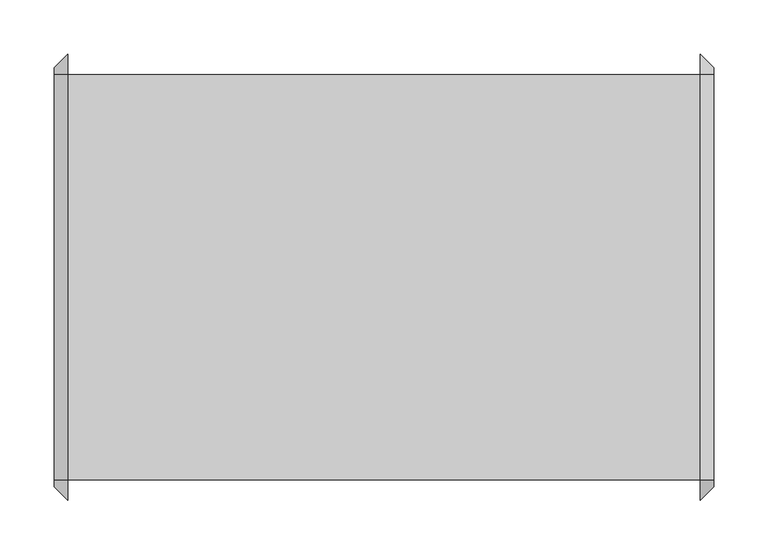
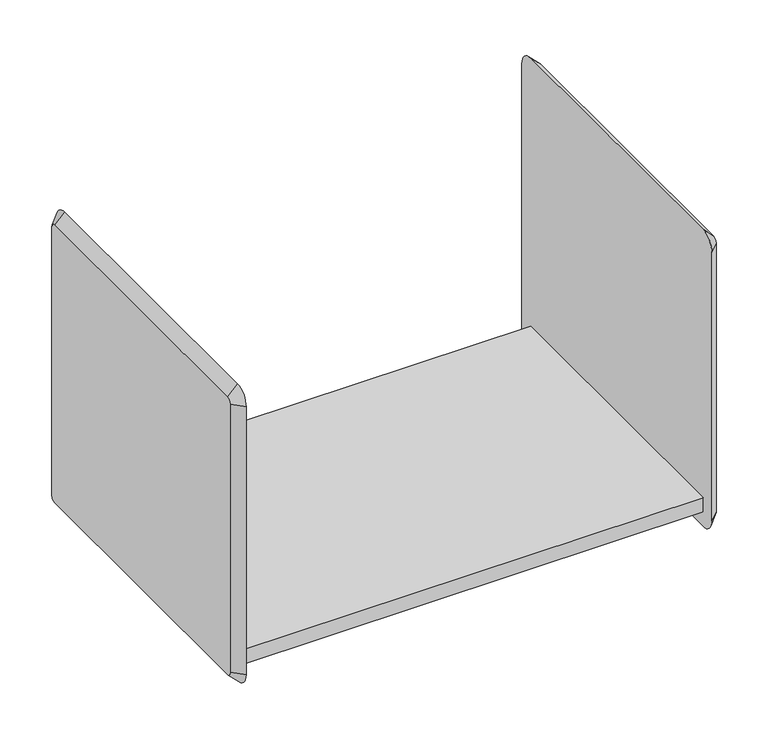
"""IFC4 building model written with IfcOpenShell, lengths in millimetres: furniture geometry, HermanMiller_ActionOffice_A3210_B-StyleShelf : 15-1/2H 16D 24W."""

from ifc_helpers import new_model, si_unit, frame, origin, place, context, project, spatial, polyline, circle_curve, outline, extrude, source, transform, mapped, element, save
from ifc_brep_helpers import plane_surface, revolved_surface, advanced_brep


def furniture_2a73d1df(model_context):
    return source(origin(), model_context, "Body", "SolidModel", [
        extrude(outline(polyline([(168.1579955, 200.025), (168.1579955, 196.85), (-416.0420045, 196.85), (-416.0420045, 200.025), (168.1579955, 200.025)])), frame((0.0, 0.0, 1200.1152313), z_axis=(0.0, 0.0, 1.0), x_axis=(1.0, 0.0, 0.0)), (0.0, 0.0, 1.0), 15.9097687),
        extrude(outline(polyline([(-174.625, 1219.2), (200.025, 1219.2), (200.025, 1216.025), (-171.45, 1216.025), (-171.45, 1200.1152313), (-174.625, 1200.1152313), (-174.625, 1219.2)])), frame((-416.0420045, 0.0, 0.0), z_axis=(1.0, 0.0, 0.0), x_axis=(0.0, 1.0, 0.0)), (0.0, 0.0, 1.0), 584.2),
        advanced_brep(
        [(180.8579955, 200.025, 1562.1), (180.8579955, -174.625, 1562.1), (180.8579955, -180.975, 1555.75), (180.8579955, -180.975, 1200.15), (180.8579955, -174.625, 1193.8), (180.8579955, 200.025, 1193.8), (180.8579955, 206.375, 1200.15), (180.8579955, 206.375, 1555.75), (168.1579955, 200.025, 1574.8), (168.1579955, 219.075, 1555.75), (168.1579955, 219.075, 1200.15), (168.1579955, 200.025, 1181.1), (168.1579955, -174.625, 1181.1), (168.1579955, -193.675, 1200.15), (168.1579955, -193.675, 1555.75), (168.1579955, -174.625, 1574.8)],
        [
            (0, 1),
            (1, 2, circle_curve(frame((180.8579955, -174.625, 1555.75), z_axis=(1.0, 0.0, 0.0), x_axis=(0.0, 0.0, 1.0)), 6.35)),
            (2, 3),
            (3, 4, circle_curve(frame((180.8579955, -174.625, 1200.15), z_axis=(1.0, 0.0, 0.0), x_axis=(0.0, -1.0, 0.0)), 6.35)),
            (4, 5),
            (5, 6, circle_curve(frame((180.8579955, 200.025, 1200.15), z_axis=(1.0, 0.0, 0.0), x_axis=(0.0, 0.0, -1.0)), 6.35)),
            (6, 7),
            (7, 0, circle_curve(frame((180.8579955, 200.025, 1555.75), z_axis=(1.0, 0.0, 0.0), x_axis=(0.0, 1.0, 0.0)), 6.35)),
            (8, 9, circle_curve(frame((168.1579955, 200.025, 1555.75), z_axis=(-1.0, 0.0, 0.0), x_axis=(0.0, 1.0, 0.0)), 19.05)),
            (9, 10),
            (10, 11, circle_curve(frame((168.1579955, 200.025, 1200.15), z_axis=(-1.0, 0.0, 0.0), x_axis=(0.0, 0.0, -1.0)), 19.05)),
            (11, 12),
            (12, 13, circle_curve(frame((168.1579955, -174.625, 1200.15), z_axis=(-1.0, 0.0, 0.0), x_axis=(0.0, -1.0, 0.0)), 19.05)),
            (13, 14),
            (14, 15, circle_curve(frame((168.1579955, -174.625, 1555.75), z_axis=(-1.0, 0.0, 0.0), x_axis=(0.0, 0.0, 1.0)), 19.05)),
            (15, 8),
            (15, 1),
            (0, 8),
            (14, 2),
            (13, 3),
            (12, 4),
            (11, 5),
            (10, 6),
            (9, 7),
        ],
        [
            plane_surface(frame((180.8579955, 12.7, 1377.95), z_axis=(1.0, 0.0, 0.0), x_axis=(0.0, -1.0, 0.0))),
            plane_surface(frame((168.1579955, 12.7, 1377.95), z_axis=(-1.0, 0.0, 0.0), x_axis=(0.0, -1.0, 0.0))),
            plane_surface(frame((168.1579955, 12.7, 1574.8), z_axis=(0.7071067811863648, 0.0, 0.7071067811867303), x_axis=(0.0, -1.0, 0.0))),
            revolved_surface(polyline([(180.8579955, -174.625, 1562.1), (168.1579955, -174.625, 1574.8)]), (187.2079955, -174.625, 1555.75), (-1.0, 0.0, 0.0)),
            plane_surface(frame((168.1579955, -193.675, 1377.95), z_axis=(0.7071067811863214, -0.7071067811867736, 0.0), x_axis=(0.0, 0.0, -1.0))),
            revolved_surface(polyline([(180.8579955, -180.97500000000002, 1200.15), (168.1579955, -193.675, 1200.15)]), (187.2079955, -174.625, 1200.15), (-1.0, 0.0, 0.0)),
            plane_surface(frame((168.1579955, 12.7, 1181.1), z_axis=(0.7071067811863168, 0.0, -0.7071067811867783), x_axis=(0.0, 1.0, 0.0))),
            revolved_surface(polyline([(180.8579955, 200.025, 1193.8), (168.1579955, 200.025, 1181.1)]), (187.2079955, 200.025, 1200.15), (-1.0, 0.0, 0.0)),
            plane_surface(frame((168.1579955, 219.075, 1377.95), z_axis=(0.7071067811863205, 0.7071067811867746, 0.0), x_axis=(0.0, 0.0, 1.0))),
            revolved_surface(polyline([(180.8579955, 206.37500000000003, 1555.75), (168.1579955, 219.075, 1555.75)]), (187.2079955, 200.025, 1555.75), (-1.0, 0.0, 0.0)),
        ],
        [
            (0, [[1, 2, 3, 4, 5, 6, 7, 8]]),
            (1, [[9, 10, 11, 12, 13, 14, 15, 16]]),
            (2, [[-16, 17, -1, 18]]),
            (3, [[-15, 19, -2, -17]]),
            (4, [[-14, 20, -3, -19]]),
            (5, [[-13, 21, -4, -20]]),
            (6, [[-12, 22, -5, -21]]),
            (7, [[-11, 23, -6, -22]]),
            (8, [[-10, 24, -7, -23]]),
            (9, [[-9, -18, -8, -24]]),
        ],
    ),
        advanced_brep(
        [(-428.7420045, -174.625, 1562.1), (-428.7420045, 200.025, 1562.1), (-428.7420045, 206.375, 1555.75), (-428.7420045, 206.375, 1200.15), (-428.7420045, 200.025, 1193.8), (-428.7420045, -174.625, 1193.8), (-428.7420045, -180.975, 1200.15), (-428.7420045, -180.975, 1555.75), (-416.0420045, -174.625, 1574.8), (-416.0420045, -193.675, 1555.75), (-416.0420045, -193.675, 1200.15), (-416.0420045, -174.625, 1181.1), (-416.0420045, 200.025, 1181.1), (-416.0420045, 219.075, 1200.15), (-416.0420045, 219.075, 1555.75), (-416.0420045, 200.025, 1574.8)],
        [
            (0, 1),
            (1, 2, circle_curve(frame((-428.7420045, 200.025, 1555.75), z_axis=(-1.0, -1.5241141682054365e-12, -1.4281908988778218e-12), x_axis=(-1.4281561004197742e-12, 0.0, 1.0)), 6.35)),
            (2, 3),
            (3, 4, circle_curve(frame((-428.7420045, 200.025, 1200.15), z_axis=(-1.0, 0.0, 0.0), x_axis=(0.0, 1.0, 0.0)), 6.35)),
            (4, 5),
            (5, 6, circle_curve(frame((-428.7420045, -174.625, 1200.15), z_axis=(-1.0, 0.0, 0.0), x_axis=(0.0, 0.0, -1.0)), 6.35)),
            (6, 7),
            (7, 0, circle_curve(frame((-428.7420045, -174.625, 1555.75), z_axis=(-1.0, -1.5214496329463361e-12, 1.6200374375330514e-12), x_axis=(1.5214195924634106e-12, -1.0, 0.0)), 6.35)),
            (8, 9, circle_curve(frame((-416.0420045, -174.625, 1555.75), z_axis=(1.0, 1.5214496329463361e-12, -1.6200374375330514e-12), x_axis=(1.5214195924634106e-12, -1.0, 0.0)), 19.05)),
            (9, 10),
            (10, 11, circle_curve(frame((-416.0420045, -174.625, 1200.15), z_axis=(1.0, 0.0, 0.0), x_axis=(0.0, 0.0, -1.0)), 19.05)),
            (11, 12),
            (12, 13, circle_curve(frame((-416.0420045, 200.025, 1200.15), z_axis=(1.0, 0.0, 0.0), x_axis=(0.0, 1.0, 0.0)), 19.05)),
            (13, 14),
            (14, 15, circle_curve(frame((-416.0420045, 200.025, 1555.75), z_axis=(1.0, 1.5241141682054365e-12, 1.4281908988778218e-12), x_axis=(-1.4281561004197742e-12, 0.0, 1.0)), 19.05)),
            (15, 8),
            (15, 1),
            (0, 8),
            (14, 2),
            (13, 3),
            (12, 4),
            (11, 5),
            (10, 6),
            (9, 7),
        ],
        [
            plane_surface(frame((-428.7420045, 12.7, 1377.95), z_axis=(-1.0, 0.0, 0.0), x_axis=(0.0, -1.0, 0.0))),
            plane_surface(frame((-416.0420045, 12.7, 1377.95), z_axis=(1.0, 0.0, 0.0), x_axis=(0.0, -1.0, 0.0))),
            plane_surface(frame((-416.0420045, 12.7, 1574.8), z_axis=(-0.7071067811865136, 0.0, 0.7071067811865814), x_axis=(0.0, 1.0, 0.0))),
            revolved_surface(polyline([(-428.7420045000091, 200.025, 1562.0999999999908), (-416.0420044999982, 200.025, 1574.8000000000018)]), (-435.0920045, 200.025, 1555.75), (1.0, 1.5241141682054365e-12, 1.4281908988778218e-12)),
            plane_surface(frame((-416.0420045, 219.075, 1377.95), z_axis=(-0.7071067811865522, 0.7071067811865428, 0.0), x_axis=(0.0, 0.0, -1.0))),
            revolved_surface(polyline([(-428.7420045, 206.37499999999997, 1200.15), (-416.0420045, 219.075, 1200.15)]), (-435.0920045, 200.025, 1200.15), (1.0, 0.0, 0.0)),
            plane_surface(frame((-416.0420045, 12.7, 1181.1), z_axis=(-0.7071067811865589, 0.0, -0.7071067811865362), x_axis=(0.0, -1.0, 0.0))),
            revolved_surface(polyline([(-428.7420045, -174.625, 1193.8), (-416.0420045, -174.625, 1181.1)]), (-435.0920045, -174.625, 1200.15), (1.0, 0.0, 0.0)),
            plane_surface(frame((-416.0420045, -193.675, 1377.95), z_axis=(-0.7071067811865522, -0.7071067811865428, 0.0), x_axis=(0.0, 0.0, 1.0))),
            revolved_surface(polyline([(-428.74200450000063, -180.97499999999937, 1555.75), (-416.04200449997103, -193.675000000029, 1555.75)]), (-435.0920045, -174.625, 1555.75), (1.0, 1.5214496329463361e-12, -1.6200374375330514e-12)),
        ],
        [
            (0, [[1, 2, 3, 4, 5, 6, 7, 8]]),
            (1, [[9, 10, 11, 12, 13, 14, 15, 16]]),
            (2, [[-16, 17, -1, 18]]),
            (3, [[-15, 19, -2, -17]]),
            (4, [[-14, 20, -3, -19]]),
            (5, [[-13, 21, -4, -20]]),
            (6, [[-12, 22, -5, -21]]),
            (7, [[-11, 23, -6, -22]]),
            (8, [[-10, 24, -7, -23]]),
            (9, [[-9, -18, -8, -24]]),
        ],
    ),
    ])


if __name__ == "__main__":
    model = new_model("IFC4")
    model_context = context("Model", 3, world=origin())
    ifc_project = project(units=[si_unit("LENGTHUNIT", "METRE", prefix="MILLI")], contexts=[model_context])
    site = spatial("IfcSite", under=ifc_project)
    building = spatial("IfcBuilding", under=site)
    placement = place(None, origin())
    furniture_shape = furniture_2a73d1df(model_context)
    element("IfcFurniture", 1, ObjectType="HermanMiller_ActionOffice_A3210_B-StyleShelf : 15-1/2H 16D 24W", at=placement, inside=building, context=model_context, shape_type="MappedRepresentation", body=[
        mapped(furniture_shape, transform((0.0, 0.0, 0.0), x_axis=(1.0, 0.0, 0.0), y_axis=(0.0, 1.0, 0.0), z_axis=(0.0, 0.0, 1.0))),
    ])
    save(model, "model.ifc")
